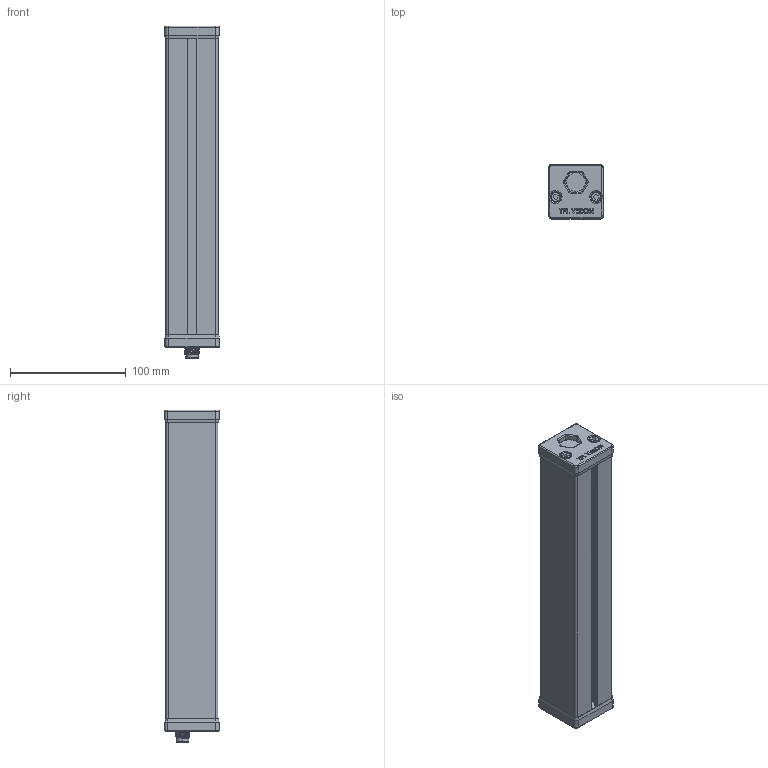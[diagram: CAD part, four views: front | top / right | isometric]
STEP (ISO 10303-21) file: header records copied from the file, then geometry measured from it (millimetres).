
FILE_DESCRIPTION (( 'STEP AP214' ), '1' );
FILE_NAME ('BLBAR 10.STEP', '2012-02-13T13:35:38', ( ' ' ), ( '' ), 'SwSTEP 2.0', 'SolidWorks 2009', '' );
FILE_SCHEMA (( 'AUTOMOTIVE_DESIGN' ));
Length unit declared in the file: millimetre
Products named in the file (1): BLBAR 10
Bounding box: 47.2 x 47 x 287.1 mm (x, y, z)
Volume: 155663.9 mm3; surface area: 150127.8 mm2
Topology: 1 solids, 3 shells, 599 faces, 1564 edges, 1007 vertices
Faces by surface type: plane 311, cylinder 156, bspline 66, torus 38, cone 20, sphere 8
Entity records: 34060 total; most frequent: CARTESIAN_POINT 13050, ORIENTED_EDGE 3096, DIRECTION 2810, EDGE_CURVE 1548, VERTEX_POINT 999, VECTOR 950, LINE 950, AXIS2_PLACEMENT_3D 930
